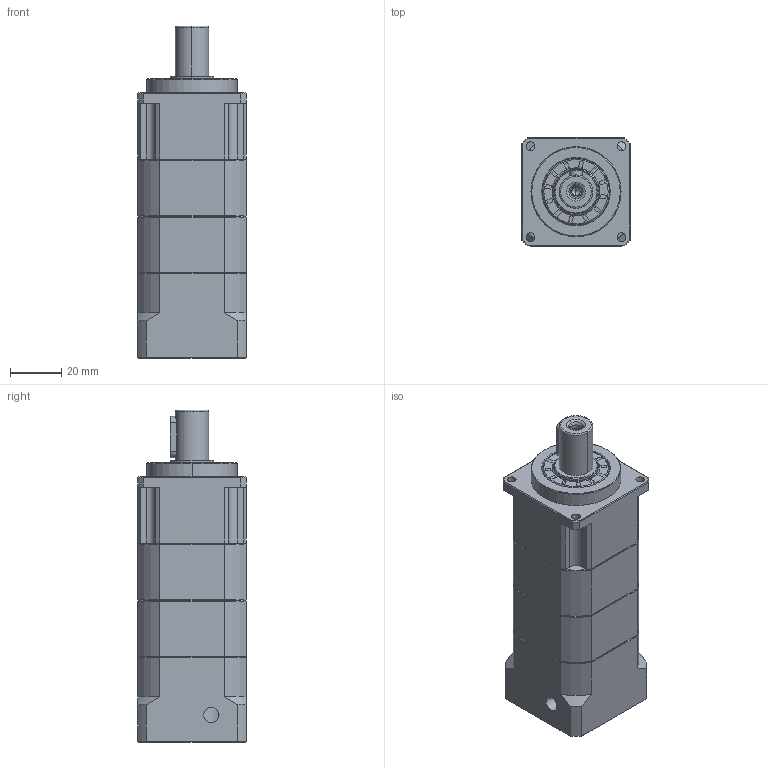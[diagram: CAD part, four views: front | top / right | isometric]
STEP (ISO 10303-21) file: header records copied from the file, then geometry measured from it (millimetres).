
FILE_DESCRIPTION (( 'STEP AP214' ), '1' );
FILE_NAME ('ZPB042-D13-L3-P1-8-30-46-M4.step', '2024-04-10T05:31:34', ( 'Windows 蚚誧' ), ( 'Organization' ), 'SwSTEP 2.0', 'SolidWorks 2016', '' );
FILE_SCHEMA (( 'AUTOMOTIVE_DESIGN' ));
Length unit declared in the file: millimetre
Products named in the file (1): ZPB042-D13-L3-P1-8-30-46-M4
Bounding box: 42 x 42 x 129 mm (x, y, z)
Volume: 152932.5 mm3; surface area: 42684.4 mm2
Topology: 9 solids, 18 shells, 1444 faces, 3717 edges, 2378 vertices
Faces by surface type: plane 665, bspline 337, cone 219, cylinder 217, torus 6
Entity records: 73598 total; most frequent: CARTESIAN_POINT 24547, ORIENTED_EDGE 7362, DIRECTION 5850, EDGE_CURVE 3681, VERTEX_POINT 2378, LINE 2200, VECTOR 2200, AXIS2_PLACEMENT_3D 1825
